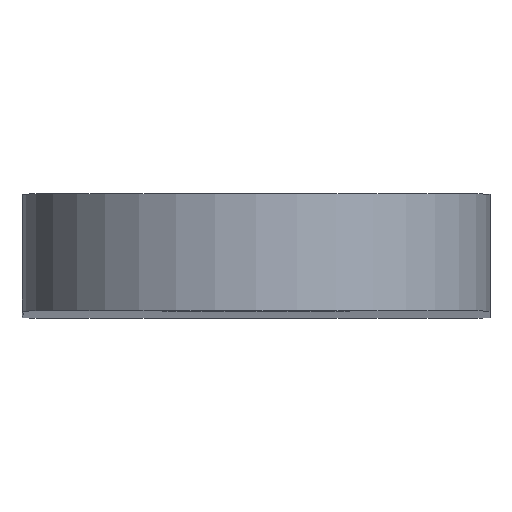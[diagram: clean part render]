
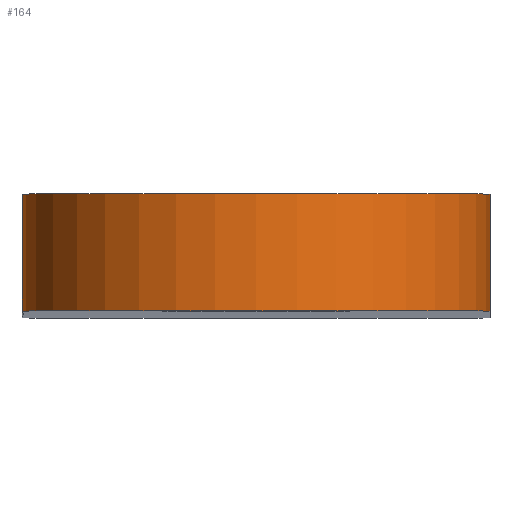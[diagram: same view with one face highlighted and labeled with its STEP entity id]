
A CAD part, top view. The second image highlights one B-rep face of the part: STEP entity #164.
In plain terms, the highlighted cylindrical face has radius 3 mm (diameter 6 mm), a partial arc.
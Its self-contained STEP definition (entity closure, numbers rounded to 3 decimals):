
#27=FACE_OUTER_BOUND('',#36,.T.);
#36=EDGE_LOOP('',(#127,#128,#129,#130));
#51=LINE('',#271,#64);
#52=LINE('',#277,#65);
#64=VECTOR('',#222,10.);
#65=VECTOR('',#229,10.);
#76=CIRCLE('',#192,3.);
#77=CIRCLE('',#193,3.);
#84=VERTEX_POINT('',#264);
#87=VERTEX_POINT('',#269);
#88=VERTEX_POINT('',#273);
#89=VERTEX_POINT('',#275);
#103=EDGE_CURVE('',#84,#87,#51,.T.);
#104=EDGE_CURVE('',#88,#84,#76,.T.);
#105=EDGE_CURVE('',#89,#87,#77,.T.);
#106=EDGE_CURVE('',#88,#89,#52,.T.);
#127=ORIENTED_EDGE('',*,*,#104,.T.);
#128=ORIENTED_EDGE('',*,*,#103,.T.);
#129=ORIENTED_EDGE('',*,*,#105,.F.);
#130=ORIENTED_EDGE('',*,*,#106,.F.);
#159=CYLINDRICAL_SURFACE('',#191,3.);
#164=ADVANCED_FACE('',(#27),#159,.T.);
#191=AXIS2_PLACEMENT_3D('',#272,#223,#224);
#192=AXIS2_PLACEMENT_3D('',#274,#225,#226);
#193=AXIS2_PLACEMENT_3D('',#276,#227,#228);
#222=DIRECTION('',(0.,1.,0.));
#223=DIRECTION('center_axis',(0.,1.,0.));
#224=DIRECTION('ref_axis',(0.,0.,1.));
#225=DIRECTION('center_axis',(0.,1.,0.));
#226=DIRECTION('ref_axis',(-1.,0.,-0.001));
#227=DIRECTION('center_axis',(0.,1.,0.));
#228=DIRECTION('ref_axis',(-1.,0.,-0.001));
#229=DIRECTION('',(0.,1.,0.));
#264=CARTESIAN_POINT('',(3.,0.,25.));
#269=CARTESIAN_POINT('',(3.,1.5,25.));
#271=CARTESIAN_POINT('',(3.,0.,25.));
#272=CARTESIAN_POINT('Origin',(0.,0.,25.));
#273=CARTESIAN_POINT('',(-3.,0.,24.997));
#274=CARTESIAN_POINT('Origin',(0.,0.,25.));
#275=CARTESIAN_POINT('',(-3.,1.5,24.997));
#276=CARTESIAN_POINT('Origin',(0.,1.5,25.));
#277=CARTESIAN_POINT('',(-3.,0.,24.997));
